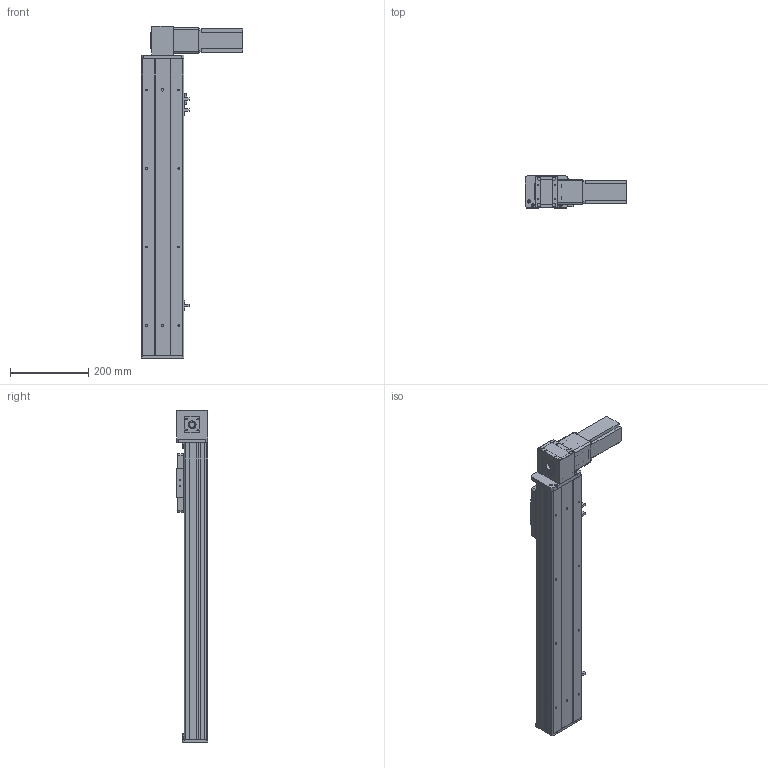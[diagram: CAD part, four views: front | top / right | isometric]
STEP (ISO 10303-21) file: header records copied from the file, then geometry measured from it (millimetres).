
FILE_DESCRIPTION (( 'STEP AP203' ), '1' );
FILE_NAME ('Y10CB-D90-S500-BD-P400W.STEP', '2020-02-17T02:24:47', ( '微软用户' ), ( '微软中国' ), 'SwSTEP 2.0', 'SolidWorks 2017', '' );
FILE_SCHEMA (( 'CONFIG_CONTROL_DESIGN' ));
Length unit declared in the file: millimetre
Products named in the file (16): 0B-源倛裔啣; Y10B--々湍喘謫眊--666; 0B-埴倛裔啣; 0B-薊粣ん眊; 10CB-詩湍-; Y10CB-D90-S500-BD-P400W; Y10CB- 掛极耜裔啣-毀---; Y10C---詩湍揤啣; 0CB-雄赽釱---; 10CB9-掛极; 0Cb-俋欶---; 10CB-耜裔; Y10B-々湍喘謫眊楊擘啣--; Y135C-陔俋离換覜結え-; san松下电机400不带刹车----; Y100-135俋离換覜ん--
Assembly tree (19 placements, depth 2):
  Y10CB-D90-S500-BD-P400W
    0CB-雄赽釱---
    0Cb-俋欶---
    Y10B-々湍喘謫眊楊擘啣--
    san松下电机400不带刹车----
    0B-源倛裔啣
    0B-埴倛裔啣
    10CB-詩湍-
    Y10CB- 掛极耜裔啣-毀---  x2
    Y10C---詩湍揤啣  x2
    10CB9-掛极
    10CB-耜裔
    Y135C-陔俋离換覜結え-
    Y100-135俋离換覜ん--  x3
    Y10B--々湍喘謫眊--666
    0B-薊粣ん眊
Bounding box: 258 x 80.5 x 846 mm (x, y, z)
Volume: 2263918.3 mm3; surface area: 927533.2 mm2
Topology: 19 solids, 19 shells, 864 faces, 2262 edges, 1484 vertices
Faces by surface type: plane 430, cylinder 410, cone 24
Entity records: 26069 total; most frequent: CARTESIAN_POINT 4460, DIRECTION 4253, ORIENTED_EDGE 3994, EDGE_CURVE 1997, AXIS2_PLACEMENT_3D 1527, VERTEX_POINT 1310, VECTOR 1199, LINE 1199
